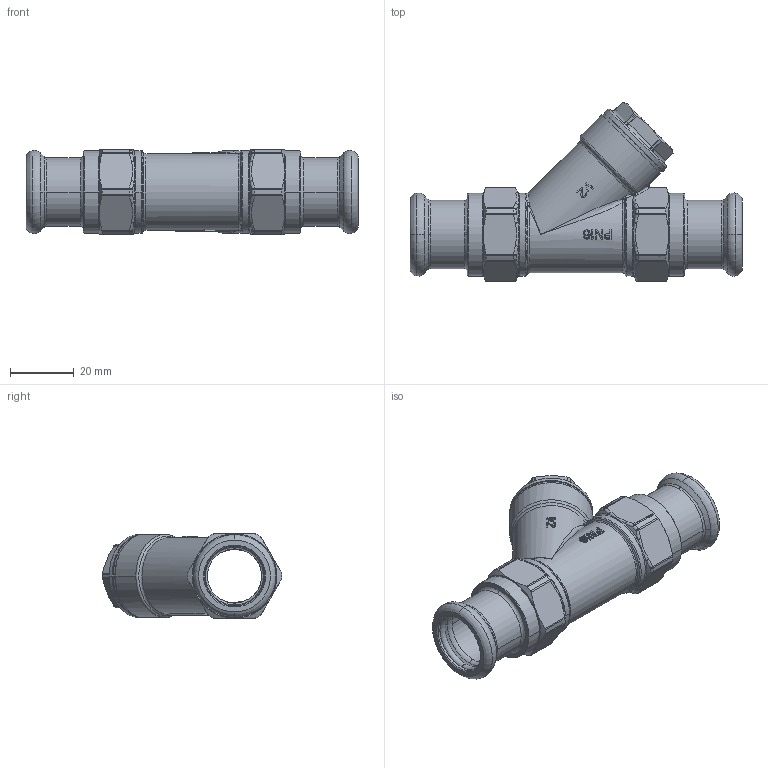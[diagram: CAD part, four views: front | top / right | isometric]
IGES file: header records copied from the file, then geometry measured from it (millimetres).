
Global section: file name: No Iges File Name specified; native system: AutoDesk Inventor R12.0; preprocessor: AutoDesk Inventor Iges Exporter R12.0; date: 20120203.135202; units: millimetre
Bounding box: 104 x 56.14 x 26.5 mm (x, y, z)
Volume: 27887.5 mm3; surface area: 22302.5 mm2
Topology: 1 solids, 2 shells, 692 faces, 1789 edges, 1115 vertices
Faces by surface type: bspline 249, plane 151, cylinder 98, revolution 93, cone 49, torus 30, sphere 22
